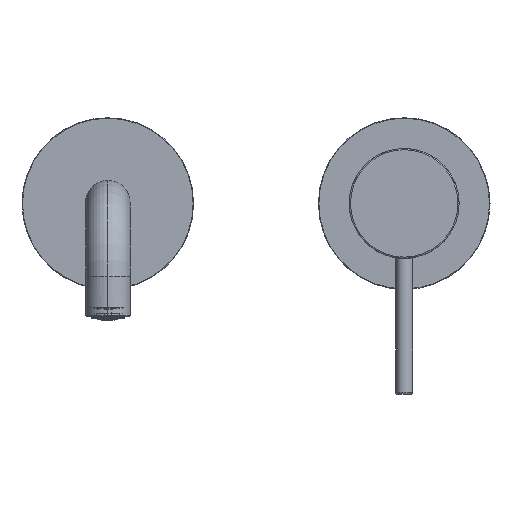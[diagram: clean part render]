
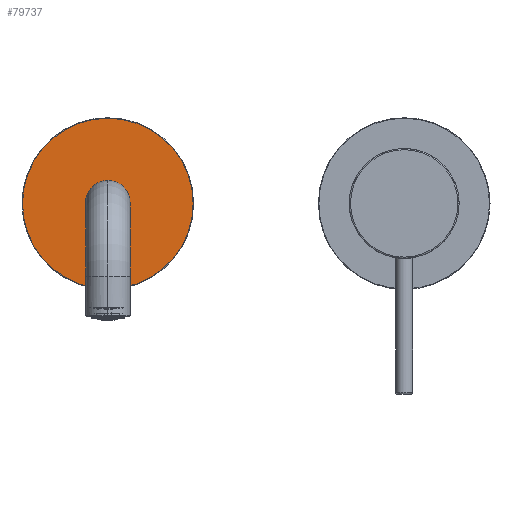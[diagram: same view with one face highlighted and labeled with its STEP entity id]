
A CAD part, top view. The second image highlights one B-rep face of the part: STEP entity #79737.
In plain terms, the highlighted planar face has unit normal (0, 0, 1).
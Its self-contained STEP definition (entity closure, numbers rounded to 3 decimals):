
#21618=CARTESIAN_POINT('',(-65.5,34.5,87.05));
#21619=DIRECTION('',(0.,0.,1.));
#21620=DIRECTION('',(1.,0.,0.));
#21621=AXIS2_PLACEMENT_3D('',#21618,#21619,#21620);
#21623=CARTESIAN_POINT('',(-65.5,34.5,87.05));
#21624=DIRECTION('',(0.,0.,1.));
#21625=DIRECTION('',(-1.,0.,0.));
#21626=AXIS2_PLACEMENT_3D('',#21623,#21624,#21625);
#21628=CARTESIAN_POINT('',(-65.5,34.5,87.05));
#21629=DIRECTION('',(0.,0.,1.));
#21630=DIRECTION('',(0.,1.,0.));
#21631=AXIS2_PLACEMENT_3D('',#21628,#21629,#21630);
#21633=CARTESIAN_POINT('',(-65.5,34.5,87.05));
#21634=DIRECTION('',(0.,0.,1.));
#21635=DIRECTION('',(0.,-1.,0.));
#21636=AXIS2_PLACEMENT_3D('',#21633,#21634,#21635);
#69903=CARTESIAN_POINT('',(-30.95,34.5,87.05));
#69904=CARTESIAN_POINT('',(-100.05,34.5,87.05));
#69905=VERTEX_POINT('',#69903);
#69906=VERTEX_POINT('',#69904);
#70805=CARTESIAN_POINT('',(-65.5,43.3,87.05));
#70806=CARTESIAN_POINT('',(-65.5,25.7,87.05));
#70807=VERTEX_POINT('',#70805);
#70808=VERTEX_POINT('',#70806);
#79721=CARTESIAN_POINT('',(-65.5,34.5,87.05));
#79722=DIRECTION('',(0.,0.,-1.));
#79723=DIRECTION('',(-1.,0.,0.));
#79724=AXIS2_PLACEMENT_3D('',#79721,#79722,#79723);
#79725=PLANE('',#79724);
#79727=ORIENTED_EDGE('',*,*,#79726,.F.);
#79729=ORIENTED_EDGE('',*,*,#79728,.F.);
#79730=EDGE_LOOP('',(#79727,#79729));
#79731=FACE_OUTER_BOUND('',#79730,.F.);
#79733=ORIENTED_EDGE('',*,*,#79732,.T.);
#79734=ORIENTED_EDGE('',*,*,#79711,.T.);
#79735=EDGE_LOOP('',(#79733,#79734));
#79736=FACE_BOUND('',#79735,.F.);
#79737=ADVANCED_FACE('',(#79731,#79736),#79725,.F.);
#21622=CIRCLE('',#21621,34.55);
#21627=CIRCLE('',#21626,34.55);
#21632=CIRCLE('',#21631,8.8);
#21637=CIRCLE('',#21636,8.8);
#79711=EDGE_CURVE('',#70808,#70807,#21637,.T.);
#79726=EDGE_CURVE('',#69905,#69906,#21622,.T.);
#79728=EDGE_CURVE('',#69906,#69905,#21627,.T.);
#79732=EDGE_CURVE('',#70807,#70808,#21632,.T.);
